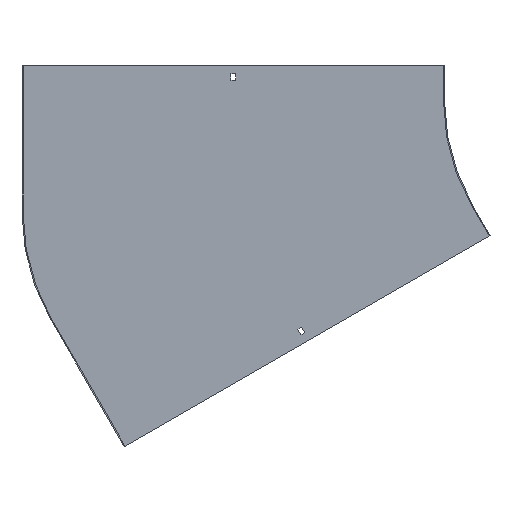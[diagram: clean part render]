
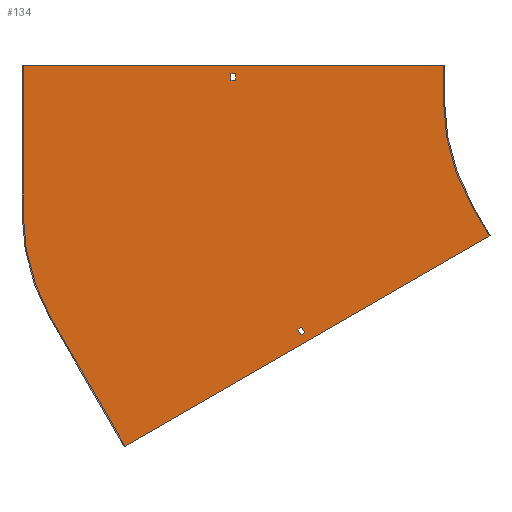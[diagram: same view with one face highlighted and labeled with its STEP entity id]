
A CAD part, front view. The second image highlights one B-rep face of the part: STEP entity #134.
In plain terms, the highlighted planar face has unit normal (0, -1, 0).
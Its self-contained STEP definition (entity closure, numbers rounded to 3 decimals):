
#1 = DIRECTION ( 'NONE',  ( -0.866, 0., -0.5 ) ) ;
#4 = DIRECTION ( 'NONE',  ( 1., 0., 0. ) ) ;
#8 = CARTESIAN_POINT ( 'NONE',  ( -516.801, -1.5, -298.375 ) ) ;
#15 = FACE_OUTER_BOUND ( 'NONE', #643, .T. ) ;
#22 = ORIENTED_EDGE ( 'NONE', *, *, #117, .F. ) ;
#25 = DIRECTION ( 'NONE',  ( -0.5, 0., 0.866 ) ) ;
#37 = VERTEX_POINT ( 'NONE', #222 ) ;
#39 = FACE_BOUND ( 'NONE', #410, .T. ) ;
#41 = ORIENTED_EDGE ( 'NONE', *, *, #506, .F. ) ;
#54 = ORIENTED_EDGE ( 'NONE', *, *, #851, .T. ) ;
#70 = CARTESIAN_POINT ( 'NONE',  ( -300., -1.5, 0. ) ) ;
#73 = CARTESIAN_POINT ( 'NONE',  ( -522.43, -1.5, -301.625 ) ) ;
#74 = ORIENTED_EDGE ( 'NONE', *, *, #361, .F. ) ;
#75 = ORIENTED_EDGE ( 'NONE', *, *, #200, .F. ) ;
#78 = CARTESIAN_POINT ( 'NONE',  ( -233.509, -1.5, -192.551 ) ) ;
#90 = LINE ( 'NONE', #414, #522 ) ;
#93 = VERTEX_POINT ( 'NONE', #678 ) ;
#99 = CARTESIAN_POINT ( 'NONE',  ( 0., -1.5, 0. ) ) ;
#104 = DIRECTION ( 'NONE',  ( 0., 0., 1. ) ) ;
#107 = CARTESIAN_POINT ( 'NONE',  ( -600., -1.5, -160.77 ) ) ;
#117 = EDGE_CURVE ( 'NONE', #37, #295, #617, .T. ) ;
#118 = DIRECTION ( 'NONE',  ( 0., 0., -1. ) ) ;
#122 = VECTOR ( 'NONE', #527, 1000. ) ;
#134 = ADVANCED_FACE ( 'NONE', ( #336, #15, #39 ), #568, .T. ) ;
#137 = LINE ( 'NONE', #654, #447 ) ;
#156 = CARTESIAN_POINT ( 'NONE',  ( 14.5, -1.5, -25.115 ) ) ;
#167 = CARTESIAN_POINT ( 'NONE',  ( -603.25, -1.5, 38. ) ) ;
#171 = VERTEX_POINT ( 'NONE', #837 ) ;
#178 = CARTESIAN_POINT ( 'NONE',  ( -234.808, -1.5, -193.301 ) ) ;
#187 = VECTOR ( 'NONE', #601, 1000. ) ;
#188 = CARTESIAN_POINT ( 'NONE',  ( 0., -1.5, 0. ) ) ;
#200 = EDGE_CURVE ( 'NONE', #171, #231, #340, .T. ) ;
#201 = VECTOR ( 'NONE', #454, 1000. ) ;
#219 = ORIENTED_EDGE ( 'NONE', *, *, #529, .F. ) ;
#222 = CARTESIAN_POINT ( 'NONE',  ( -900., -1.5, 50. ) ) ;
#224 = ORIENTED_EDGE ( 'NONE', *, *, #407, .F. ) ;
#231 = VERTEX_POINT ( 'NONE', #741 ) ;
#242 = VECTOR ( 'NONE', #104, 1000. ) ;
#245 = AXIS2_PLACEMENT_3D ( 'NONE', #107, #703, #118 ) ;
#259 = LINE ( 'NONE', #517, #616 ) ;
#266 = EDGE_CURVE ( 'NONE', #231, #674, #452, .T. ) ;
#275 = ORIENTED_EDGE ( 'NONE', *, *, #625, .F. ) ;
#293 = DIRECTION ( 'NONE',  ( 0., 0., -1. ) ) ;
#295 = VERTEX_POINT ( 'NONE', #795 ) ;
#300 = EDGE_CURVE ( 'NONE', #295, #612, #461, .T. ) ;
#308 = VERTEX_POINT ( 'NONE', #167 ) ;
#314 = ORIENTED_EDGE ( 'NONE', *, *, #383, .T. ) ;
#323 = VERTEX_POINT ( 'NONE', #347 ) ;
#326 = DIRECTION ( 'NONE',  ( 0.866, 0., 0.5 ) ) ;
#332 = DIRECTION ( 'NONE',  ( 0.5, 0., -0.866 ) ) ;
#336 = FACE_BOUND ( 'NONE', #606, .T. ) ;
#337 = CARTESIAN_POINT ( 'NONE',  ( -596.75, -1.5, 29. ) ) ;
#340 = LINE ( 'NONE', #8, #757 ) ;
#347 = CARTESIAN_POINT ( 'NONE',  ( -503.43, -1.5, -334.534 ) ) ;
#356 = CARTESIAN_POINT ( 'NONE',  ( -859.808, -1.5, -310.77 ) ) ;
#361 = EDGE_CURVE ( 'NONE', #860, #37, #376, .T. ) ;
#362 = DIRECTION ( 'NONE',  ( -0.5, 0., 0.866 ) ) ;
#368 = DIRECTION ( 'NONE',  ( 0., 0., -1. ) ) ;
#376 = LINE ( 'NONE', #638, #631 ) ;
#377 = CIRCLE ( 'NONE', #245, 300. ) ;
#383 = EDGE_CURVE ( 'NONE', #699, #722, #650, .T. ) ;
#388 = CARTESIAN_POINT ( 'NONE',  ( 0., -1.5, 29. ) ) ;
#398 = CARTESIAN_POINT ( 'NONE',  ( -507.93, -1.5, -326.74 ) ) ;
#407 = EDGE_CURVE ( 'NONE', #323, #171, #578, .T. ) ;
#410 = EDGE_LOOP ( 'NONE', ( #836, #54, #314, #805 ) ) ;
#414 = CARTESIAN_POINT ( 'NONE',  ( -596.75, -1.5, 0. ) ) ;
#418 = CARTESIAN_POINT ( 'NONE',  ( -900., -1.5, -160.77 ) ) ;
#437 = EDGE_CURVE ( 'NONE', #615, #540, #137, .T. ) ;
#441 = ORIENTED_EDGE ( 'NONE', *, *, #635, .F. ) ;
#447 = VECTOR ( 'NONE', #332, 1000. ) ;
#452 = LINE ( 'NONE', #156, #572 ) ;
#454 = DIRECTION ( 'NONE',  ( -1., 0., 0. ) ) ;
#457 = DIRECTION ( 'NONE',  ( 0., -1., 0. ) ) ;
#461 = LINE ( 'NONE', #735, #187 ) ;
#466 = CARTESIAN_POINT ( 'NONE',  ( -596.75, -1.5, 38. ) ) ;
#467 = VECTOR ( 'NONE', #4, 1000. ) ;
#469 = CARTESIAN_POINT ( 'NONE',  ( -603.25, -1.5, 29. ) ) ;
#476 = ORIENTED_EDGE ( 'NONE', *, *, #437, .F. ) ;
#478 = ORIENTED_EDGE ( 'NONE', *, *, #300, .F. ) ;
#506 = EDGE_CURVE ( 'NONE', #93, #779, #259, .T. ) ;
#517 = CARTESIAN_POINT ( 'NONE',  ( -754.423, -1.5, -493.301 ) ) ;
#522 = VECTOR ( 'NONE', #293, 1000. ) ;
#527 = DIRECTION ( 'NONE',  ( 0.5, 0., -0.866 ) ) ;
#529 = EDGE_CURVE ( 'NONE', #779, #860, #377, .T. ) ;
#533 = VECTOR ( 'NONE', #326, 1000. ) ;
#537 = LINE ( 'NONE', #739, #467 ) ;
#540 = VERTEX_POINT ( 'NONE', #178 ) ;
#553 = CIRCLE ( 'NONE', #582, 300. ) ;
#568 = PLANE ( 'NONE',  #728 ) ;
#572 = VECTOR ( 'NONE', #1, 1000. ) ;
#578 = LINE ( 'NONE', #777, #533 ) ;
#582 = AXIS2_PLACEMENT_3D ( 'NONE', #188, #457, #733 ) ;
#593 = CARTESIAN_POINT ( 'NONE',  ( -901.5, -1.5, 50. ) ) ;
#601 = DIRECTION ( 'NONE',  ( 0., 0., -1. ) ) ;
#606 = EDGE_LOOP ( 'NONE', ( #75, #224, #275, #628 ) ) ;
#612 = VERTEX_POINT ( 'NONE', #70 ) ;
#615 = VERTEX_POINT ( 'NONE', #656 ) ;
#616 = VECTOR ( 'NONE', #362, 1000. ) ;
#617 = LINE ( 'NONE', #593, #857 ) ;
#618 = LINE ( 'NONE', #78, #701 ) ;
#622 = DIRECTION ( 'NONE',  ( 0., -1., 0. ) ) ;
#625 = EDGE_CURVE ( 'NONE', #674, #323, #799, .T. ) ;
#628 = ORIENTED_EDGE ( 'NONE', *, *, #266, .F. ) ;
#631 = VECTOR ( 'NONE', #708, 1000. ) ;
#635 = EDGE_CURVE ( 'NONE', #612, #615, #553, .T. ) ;
#638 = CARTESIAN_POINT ( 'NONE',  ( -900., -1.5, -160.77 ) ) ;
#643 = EDGE_LOOP ( 'NONE', ( #22, #74, #219, #41, #665, #476, #441, #478 ) ) ;
#650 = LINE ( 'NONE', #388, #201 ) ;
#654 = CARTESIAN_POINT ( 'NONE',  ( -259.808, -1.5, -150. ) ) ;
#656 = CARTESIAN_POINT ( 'NONE',  ( -259.808, -1.5, -150. ) ) ;
#665 = ORIENTED_EDGE ( 'NONE', *, *, #686, .F. ) ;
#667 = DIRECTION ( 'NONE',  ( 1., 0., 0. ) ) ;
#674 = VERTEX_POINT ( 'NONE', #398 ) ;
#678 = CARTESIAN_POINT ( 'NONE',  ( -754.423, -1.5, -493.301 ) ) ;
#686 = EDGE_CURVE ( 'NONE', #540, #93, #618, .T. ) ;
#699 = VERTEX_POINT ( 'NONE', #337 ) ;
#701 = VECTOR ( 'NONE', #755, 1000. ) ;
#703 = DIRECTION ( 'NONE',  ( 0., 1., 0. ) ) ;
#708 = DIRECTION ( 'NONE',  ( 0., 0., 1. ) ) ;
#722 = VERTEX_POINT ( 'NONE', #469 ) ;
#728 = AXIS2_PLACEMENT_3D ( 'NONE', #99, #622, #368 ) ;
#733 = DIRECTION ( 'NONE',  ( 0., 0., -1. ) ) ;
#735 = CARTESIAN_POINT ( 'NONE',  ( -300., -1.5, 50. ) ) ;
#739 = CARTESIAN_POINT ( 'NONE',  ( 0., -1.5, 38. ) ) ;
#741 = CARTESIAN_POINT ( 'NONE',  ( -502.301, -1.5, -323.49 ) ) ;
#755 = DIRECTION ( 'NONE',  ( -0.866, 0., -0.5 ) ) ;
#757 = VECTOR ( 'NONE', #25, 1000. ) ;
#776 = EDGE_CURVE ( 'NONE', #722, #308, #826, .T. ) ;
#777 = CARTESIAN_POINT ( 'NONE',  ( 19., -1.5, -32.909 ) ) ;
#779 = VERTEX_POINT ( 'NONE', #356 ) ;
#784 = VERTEX_POINT ( 'NONE', #466 ) ;
#788 = EDGE_CURVE ( 'NONE', #308, #784, #537, .T. ) ;
#795 = CARTESIAN_POINT ( 'NONE',  ( -300., -1.5, 50. ) ) ;
#799 = LINE ( 'NONE', #73, #122 ) ;
#805 = ORIENTED_EDGE ( 'NONE', *, *, #776, .T. ) ;
#817 = CARTESIAN_POINT ( 'NONE',  ( -603.25, -1.5, 0. ) ) ;
#826 = LINE ( 'NONE', #817, #242 ) ;
#836 = ORIENTED_EDGE ( 'NONE', *, *, #788, .T. ) ;
#837 = CARTESIAN_POINT ( 'NONE',  ( -497.801, -1.5, -331.284 ) ) ;
#851 = EDGE_CURVE ( 'NONE', #784, #699, #90, .T. ) ;
#857 = VECTOR ( 'NONE', #667, 1000. ) ;
#860 = VERTEX_POINT ( 'NONE', #418 ) ;
